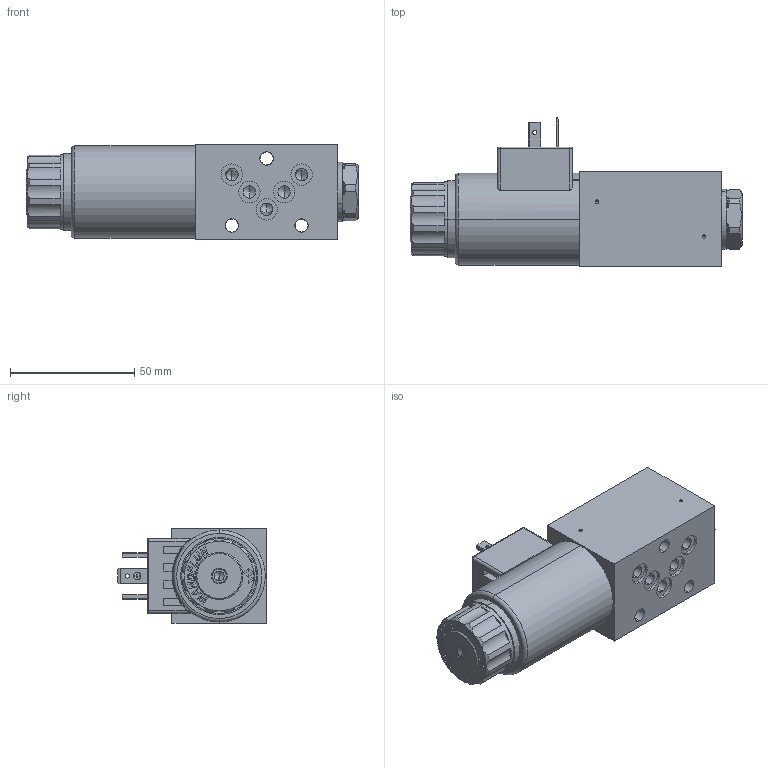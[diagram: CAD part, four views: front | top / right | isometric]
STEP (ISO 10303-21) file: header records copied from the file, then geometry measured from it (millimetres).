
FILE_DESCRIPTION (( 'STEP AP214' ), '1' );
FILE_NAME ('WDMFA04-4_2-Aside.STEP', '2017-03-17T14:01:45', ( '' ), ( '' ), 'SwSTEP 2.0', 'SolidWorks 2016', '' );
FILE_SCHEMA (( 'AUTOMOTIVE_DESIGN' ));
Length unit declared in the file: millimetre
Products named in the file (1): WDMFA04-4_2-Aside
Bounding box: 133.5 x 59.9 x 38 mm (x, y, z)
Volume: 156708.3 mm3; surface area: 29218 mm2
Topology: 3 solids, 5 shells, 1166 faces, 3251 edges, 2140 vertices
Faces by surface type: plane 650, cylinder 386, cone 64, bspline 52, torus 14
Entity records: 55083 total; most frequent: CARTESIAN_POINT 12255, ORIENTED_EDGE 6466, DIRECTION 6088, EDGE_CURVE 3233, VERTEX_POINT 2140, VECTOR 2042, LINE 2042, AXIS2_PLACEMENT_3D 2023
